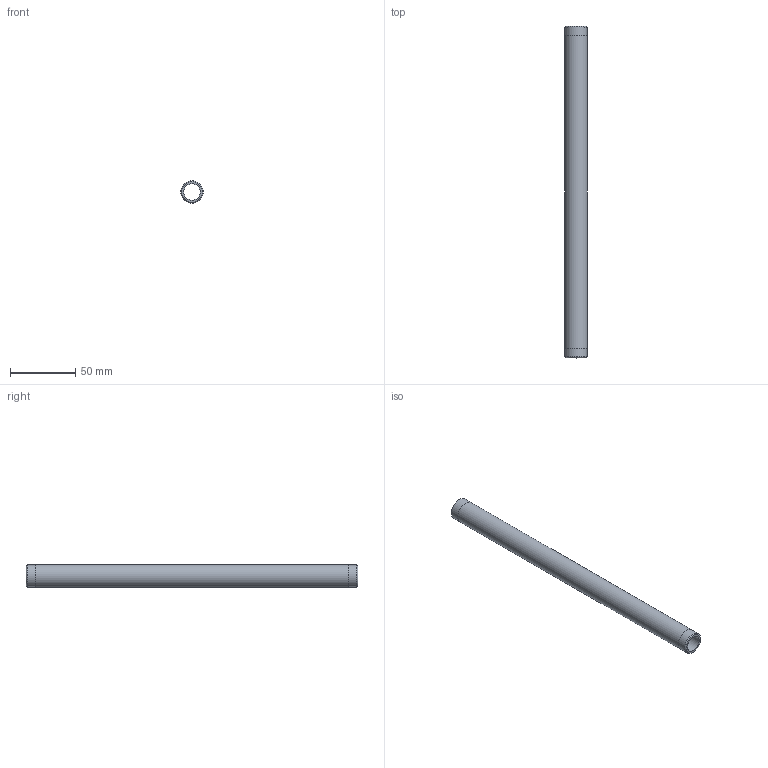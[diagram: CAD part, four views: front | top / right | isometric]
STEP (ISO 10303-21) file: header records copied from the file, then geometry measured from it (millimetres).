
FILE_DESCRIPTION(/* description */ (''),/* implementation_level */ '2;1');
FILE_NAME(/* name */ 'C:/Users/drich/Desktop/SSPN38-10 v1.step',/* time_stamp */ '2020-01-04T13:58:30-06:00',/* author */ (''),/* organization */ (''),/* preprocessor_version */ 'ST-DEVELOPER v18',/* originating_system */ 'Autodesk Translation Framework v8.12.0.6',/* authorisation */ '');
FILE_SCHEMA (('AUTOMOTIVE_DESIGN { 1 0 10303 214 3 1 1 }'));
Length unit declared in the file: inch
Products named in the file (1): SSPN38-10
Bounding box: 17.14 x 254 x 17.14 mm (x, y, z)
Volume: 27308.2 mm3; surface area: 23836.9 mm2
Topology: 1 solids, 1 shells, 10 faces, 24 edges, 18 vertices
Faces by surface type: cylinder 4, plane 4, cone 2
Full cylindrical faces by diameter (mm): 12.522 x1, 17.094 x2, 17.145 x1
Entity records: 353 total; most frequent: DIRECTION 64, CARTESIAN_POINT 53, ORIENTED_EDGE 48, AXIS2_PLACEMENT_3D 29, EDGE_CURVE 24, CIRCLE 18, VERTEX_POINT 18, EDGE_LOOP 14
